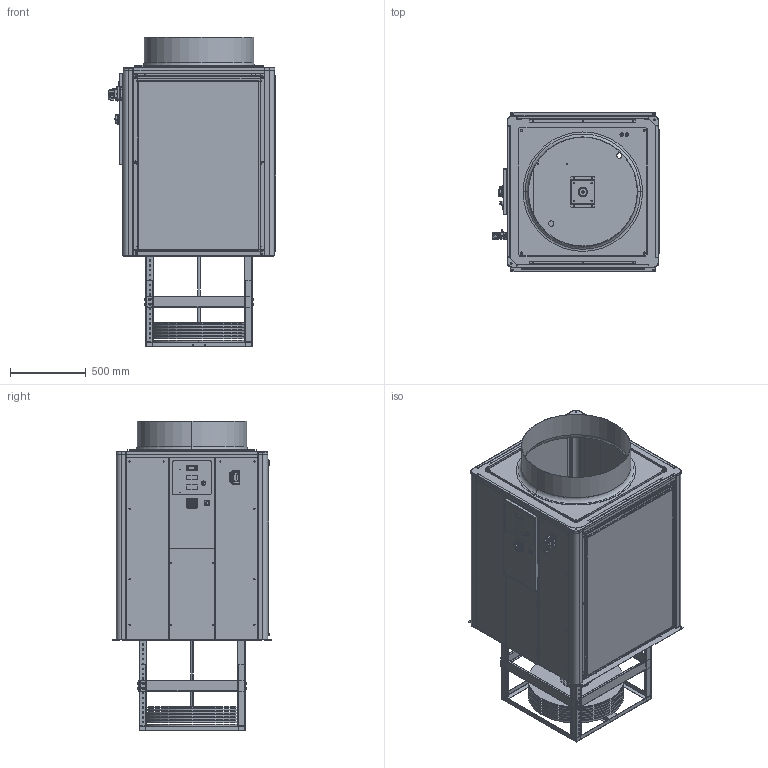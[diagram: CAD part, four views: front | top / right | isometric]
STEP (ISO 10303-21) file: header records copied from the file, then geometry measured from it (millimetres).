
FILE_DESCRIPTION (( 'STEP AP203' ), '1' );
FILE_NAME ('ECIK-300_EVAP_FLAT_R513A_REV00.STEP', '2026-03-24T14:15:26', ( '' ), ( '' ), 'SwSTEP 2.0', 'SolidWorks 2023', '' );
FILE_SCHEMA (( 'CONFIG_CONTROL_DESIGN' ));
Length unit declared in the file: millimetre
Products named in the file (52): 10J-8HP-ICQ-4HP-ICQ-3HP-1P-1.5HP-____________-0; AEC1022F; ____710________; EV-RA-00036_000_FIGURINO; ICQ-10-__________3; VR-2D-00050_000; ICQ-10-__________2-1; VR-K8-00001_000; 8HP-FD-20________-IIII-III-II-FB-KG-________; ICQ-10-______; hex nut style 1 gradeab_iso_ISO - 4032 - M8 - W - N; 10J-8HP-ICQ-4HP-ICQ-3HP-1P-FB1.5p-____2P______-DCF-BK3P-______(____); SELETTORE_NERO_BK; CO-EL-00051; CR-K6-00005_000C; 10J-8HP-ICQ-4HP-ICQ-3HP-1P-1.5HP-____________; VR-K6-00004_001; Rivelox M5 Reduced Head Hexagonal Shank___; ICQ-10J; CR-K6-00005_000B; PG11_PARTE; 10J-8HP-ICQ-4HP-ICQ-3HP-1P-FB1.5p-____2P______-DCF-BK3P-____ - ____ (2); VR-K6-00001_001; CR-AG-00021_000; CR-K6-00005_000A; ECIK-300_EVAP_FLAT_R513A_REV00; DED965FB-6F17-44D8-8B5E-7FBD67AD56EC_3_BK; 10J-8HP-ICQ-4HP-ICQ-3HP-1P-______-1.5HP; QUADRO K6; VR-K8-00003_000; VR-K6-00003_001; 10J-8HP-ICQ-4HP-ICQ-3HP-1P-FB1.5p-____; 10J-8HP-FD-__5P-__________; 10J-8HP-ICQ-4HP-ICQ-3HP-1P-__________-1.5HP; 10J-8HP-FD-__5P________-500____; AGITATORE DISCO; VR-K6-00002_001; ____________2.0______; 10J-________; hex bolt gradeb_iso_ISO 4015 - M8 x 30 x 22-N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
Assembly tree (103 placements, depth 4):
  ECIK-300_EVAP_FLAT_R513A_REV00
    ICQ-10J
      10J-8HP-FD-__5P-__________
        10J-8HP-FD-__5P________-500____
        8HP-FD-20________-IIII-III-II-FB-KG-________  x2
      10J-8HP-ICQ-4HP-ICQ-3HP-1P-FB1.5p-____1.5P______-DCF-BK3P-____
      10J-8HP-ICQ-4HP-ICQ-3HP-1P-FB1.5p-____2P______-DCF-BK3P-____ - ____ (2)  x2
      10J-8HP-ICQ-4HP-ICQ-3HP-1P-1.5HP-____________  x2
      10J-8HP-ICQ-4HP-ICQ-3HP-1P-1.5HP-____________-0  x2
      10J-8HP-ICQ-4HP-ICQ-3HP-1P-______-1.5HP  x2
      10J-8HP-ICQ-4HP-ICQ-3HP-1P-FB1.5p-____
      10J-8HP-ICQ-4HP-ICQ-3HP-1P-__________-1.5HP
      10J-8HP-ICQ-4HP-ICQ-3HP-1P-FB1.5p-____2P______-DCF-BK3P-______(____)
      10J-8HP-ICQ-4HP-FD-____1mm-FB-KG-____  x3
      10J-________  x2
      ____710________
      ____________2.0______
      ICQ-10-______
      ICQ-10-__________2-1
      ICQ-10-__________3
      VR-K8-00002_000
    QUADRO K6
      AEC1022F
      DED965FB-6F17-44D8-8B5E-7FBD67AD56EC_3_BK
      Tappo quadro elettrico_BK
      SELETTORE_NERO_BK
      TE-EL-00007 - EW_971_230V.STEP
      SE-RR-00025_000
    VR-K8-00001_000
    VR-K6-00004_001
    VR-K8-00003_000
    Gabbia telescopica ECIK 300+200_CONTRATTA
      CR-K6-00003_001  x4
      CR-K6-00005_000
        CR-K6-00005_000B  x4
        CR-K6-00005_000C
        CR-K6-00005_000A  x4
      CR-K6-00002_000  x4
    CR-AG-00021_000
    hex nut style 1 gradeab_iso_ISO - 4032 - M8 - W - N  x8
    plain washer chamfered grade a_iso_Washer ISO 7090 - 8  x16
    hex bolt gradeb_iso_ISO 4015 - M8 x 30 x 22-N  x8
    VR-K6-00003_001
    Rivelox M5 Reduced Head Hexagonal Shank___  x2
    VR-K6-00002_001
    VR-K6-00001_001
    VR-K8-00002_000
    AGITATORE DISCO
    PG11_PARTE  x2
    CO-EL-00129
    CO-EL-00051
    VR-2D-00050_000
    EV-RA-00036_000_FIGURINO
Bounding box: 1107.8 x 1051.6 x 2045 mm (x, y, z)
Volume: 39347281.6 mm3; surface area: 26998463.6 mm2
Topology: 142 solids, 245 shells, 6598 faces, 16444 edges, 10273 vertices
Faces by surface type: plane 3438, cylinder 2248, cone 440, bspline 318, torus 154
Entity records: 174336 total; most frequent: CARTESIAN_POINT 49565, ORIENTED_EDGE 24264, DIRECTION 23951, EDGE_CURVE 12481, AXIS2_PLACEMENT_3D 8371, VERTEX_POINT 7901, LINE 7209, VECTOR 7209
